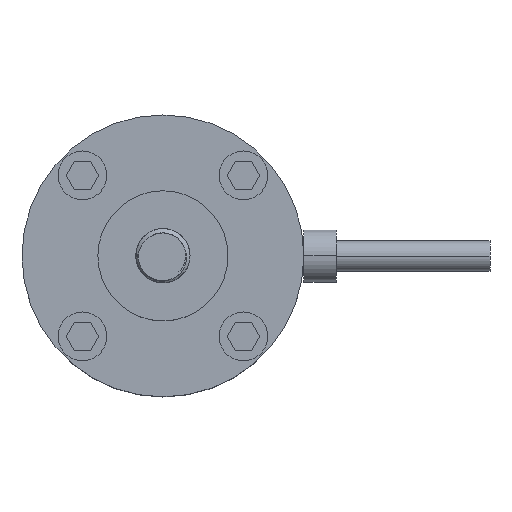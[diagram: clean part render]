
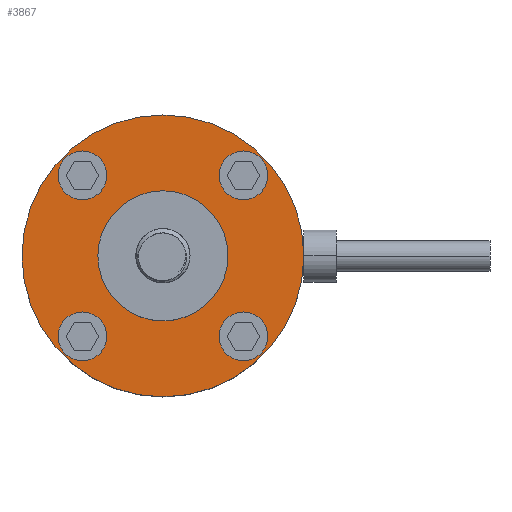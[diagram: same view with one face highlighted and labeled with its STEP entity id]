
A CAD part, top view. The second image highlights one B-rep face of the part: STEP entity #3867.
In plain terms, the highlighted planar face has unit normal (0, 0, 1).
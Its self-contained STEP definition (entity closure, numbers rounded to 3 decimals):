
#145=CARTESIAN_POINT('',(0.,0.,8.));
#146=DIRECTION('',(0.,0.,1.));
#147=DIRECTION('',(1.,0.,0.));
#148=AXIS2_PLACEMENT_3D('',#145,#146,#147);
#150=CARTESIAN_POINT('',(0.,0.,8.));
#151=DIRECTION('',(0.,0.,-1.));
#152=DIRECTION('',(1.,0.,0.));
#153=AXIS2_PLACEMENT_3D('',#150,#151,#152);
#155=CARTESIAN_POINT('',(-7.425,7.425,8.));
#156=DIRECTION('',(0.,0.,1.));
#157=DIRECTION('',(1.,0.,0.));
#158=AXIS2_PLACEMENT_3D('',#155,#156,#157);
#160=CARTESIAN_POINT('',(-7.425,7.425,8.));
#161=DIRECTION('',(0.,0.,1.));
#162=DIRECTION('',(-1.,0.,0.));
#163=AXIS2_PLACEMENT_3D('',#160,#161,#162);
#165=CARTESIAN_POINT('',(7.425,7.425,8.));
#166=DIRECTION('',(0.,0.,1.));
#167=DIRECTION('',(1.,0.,0.));
#168=AXIS2_PLACEMENT_3D('',#165,#166,#167);
#170=CARTESIAN_POINT('',(7.425,7.425,8.));
#171=DIRECTION('',(0.,0.,1.));
#172=DIRECTION('',(-1.,0.,0.));
#173=AXIS2_PLACEMENT_3D('',#170,#171,#172);
#175=CARTESIAN_POINT('',(7.425,-7.425,8.));
#176=DIRECTION('',(0.,0.,1.));
#177=DIRECTION('',(1.,0.,0.));
#178=AXIS2_PLACEMENT_3D('',#175,#176,#177);
#180=CARTESIAN_POINT('',(7.425,-7.425,8.));
#181=DIRECTION('',(0.,0.,1.));
#182=DIRECTION('',(-1.,0.,0.));
#183=AXIS2_PLACEMENT_3D('',#180,#181,#182);
#185=CARTESIAN_POINT('',(-7.425,-7.425,8.));
#186=DIRECTION('',(0.,0.,1.));
#187=DIRECTION('',(1.,0.,0.));
#188=AXIS2_PLACEMENT_3D('',#185,#186,#187);
#190=CARTESIAN_POINT('',(-7.425,-7.425,8.));
#191=DIRECTION('',(0.,0.,1.));
#192=DIRECTION('',(-1.,0.,0.));
#193=AXIS2_PLACEMENT_3D('',#190,#191,#192);
#195=CARTESIAN_POINT('',(0.,0.,8.));
#196=DIRECTION('',(0.,0.,-1.));
#197=DIRECTION('',(1.,0.,0.));
#198=AXIS2_PLACEMENT_3D('',#195,#196,#197);
#204=CARTESIAN_POINT('',(0.,0.,8.));
#205=DIRECTION('',(0.,0.,1.));
#206=DIRECTION('',(1.,0.,0.));
#207=AXIS2_PLACEMENT_3D('',#204,#205,#206);
#3411=CARTESIAN_POINT('',(6.,0.,8.));
#3413=VERTEX_POINT('',#3411);
#3414=CARTESIAN_POINT('',(13.,0.,8.));
#3416=VERTEX_POINT('',#3414);
#3419=CARTESIAN_POINT('',(-6.,0.,8.));
#3421=VERTEX_POINT('',#3419);
#3422=CARTESIAN_POINT('',(-13.,0.,8.));
#3424=VERTEX_POINT('',#3422);
#3581=CARTESIAN_POINT('',(-5.175,7.425,8.));
#3582=CARTESIAN_POINT('',(-9.675,7.425,8.));
#3583=VERTEX_POINT('',#3581);
#3584=VERTEX_POINT('',#3582);
#3585=CARTESIAN_POINT('',(9.675,7.425,8.));
#3586=CARTESIAN_POINT('',(5.175,7.425,8.));
#3587=VERTEX_POINT('',#3585);
#3588=VERTEX_POINT('',#3586);
#3589=CARTESIAN_POINT('',(9.675,-7.425,8.));
#3590=CARTESIAN_POINT('',(5.175,-7.425,8.));
#3591=VERTEX_POINT('',#3589);
#3592=VERTEX_POINT('',#3590);
#3593=CARTESIAN_POINT('',(-5.175,-7.425,8.));
#3594=CARTESIAN_POINT('',(-9.675,-7.425,8.));
#3595=VERTEX_POINT('',#3593);
#3596=VERTEX_POINT('',#3594);
#3827=CARTESIAN_POINT('',(0.,0.,8.));
#3828=DIRECTION('',(0.,0.,-1.));
#3829=DIRECTION('',(1.,0.,0.));
#3830=AXIS2_PLACEMENT_3D('',#3827,#3828,#3829);
#3831=PLANE('',#3830);
#3833=ORIENTED_EDGE('',*,*,#3832,.T.);
#3835=ORIENTED_EDGE('',*,*,#3834,.F.);
#3836=EDGE_LOOP('',(#3833,#3835));
#3837=FACE_OUTER_BOUND('',#3836,.F.);
#3839=ORIENTED_EDGE('',*,*,#3838,.T.);
#3841=ORIENTED_EDGE('',*,*,#3840,.F.);
#3842=EDGE_LOOP('',(#3839,#3841));
#3843=FACE_BOUND('',#3842,.F.);
#3844=ORIENTED_EDGE('',*,*,#3817,.T.);
#3846=ORIENTED_EDGE('',*,*,#3845,.T.);
#3847=EDGE_LOOP('',(#3844,#3846));
#3848=FACE_BOUND('',#3847,.F.);
#3850=ORIENTED_EDGE('',*,*,#3849,.T.);
#3852=ORIENTED_EDGE('',*,*,#3851,.T.);
#3853=EDGE_LOOP('',(#3850,#3852));
#3854=FACE_BOUND('',#3853,.F.);
#3856=ORIENTED_EDGE('',*,*,#3855,.T.);
#3858=ORIENTED_EDGE('',*,*,#3857,.T.);
#3859=EDGE_LOOP('',(#3856,#3858));
#3860=FACE_BOUND('',#3859,.F.);
#3862=ORIENTED_EDGE('',*,*,#3861,.T.);
#3864=ORIENTED_EDGE('',*,*,#3863,.T.);
#3865=EDGE_LOOP('',(#3862,#3864));
#3866=FACE_BOUND('',#3865,.F.);
#149=CIRCLE('',#148,6.);
#154=CIRCLE('',#153,6.);
#159=CIRCLE('',#158,2.25);
#164=CIRCLE('',#163,2.25);
#169=CIRCLE('',#168,2.25);
#174=CIRCLE('',#173,2.25);
#179=CIRCLE('',#178,2.25);
#184=CIRCLE('',#183,2.25);
#189=CIRCLE('',#188,2.25);
#194=CIRCLE('',#193,2.25);
#199=CIRCLE('',#198,13.);
#208=CIRCLE('',#207,13.);
#3817=EDGE_CURVE('',#3583,#3584,#159,.T.);
#3832=EDGE_CURVE('',#3416,#3424,#199,.T.);
#3834=EDGE_CURVE('',#3416,#3424,#208,.T.);
#3838=EDGE_CURVE('',#3413,#3421,#149,.T.);
#3840=EDGE_CURVE('',#3413,#3421,#154,.T.);
#3845=EDGE_CURVE('',#3584,#3583,#164,.T.);
#3849=EDGE_CURVE('',#3587,#3588,#169,.T.);
#3851=EDGE_CURVE('',#3588,#3587,#174,.T.);
#3855=EDGE_CURVE('',#3591,#3592,#179,.T.);
#3857=EDGE_CURVE('',#3592,#3591,#184,.T.);
#3861=EDGE_CURVE('',#3595,#3596,#189,.T.);
#3863=EDGE_CURVE('',#3596,#3595,#194,.T.);
#3867=ADVANCED_FACE('',(#3837,#3843,#3848,#3854,#3860,#3866),#3831,.F.);
